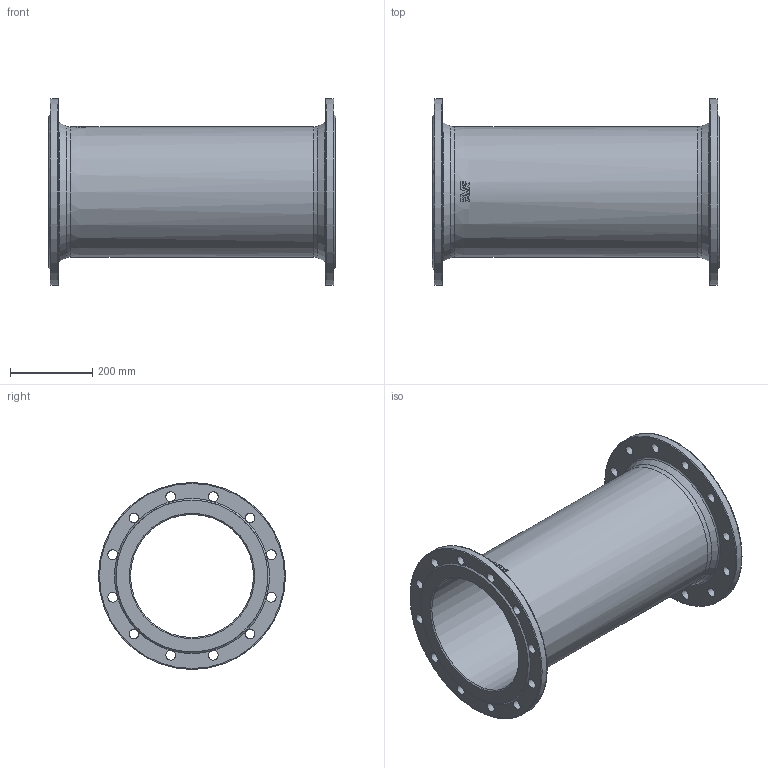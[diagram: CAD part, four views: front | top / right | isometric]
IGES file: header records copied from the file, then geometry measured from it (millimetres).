
Start section: SolidWorks IGES file using analytic representation for surfaces
Global section: file name: \\avksan2\techshare\PBM outline export from Enovia\O_712_5010_DN300_0X_REV01.igs; native system: SolidWorks 2019; preprocessor: SolidWorks 2019; author: pbm; date: 211203.105256; units: millimetre
Bounding box: 700 x 455 x 455 mm (x, y, z)
Surface area: 1711890.2 mm2 (no closed solid volume)
Topology: 0 solids, 0 shells, 112 faces, 578 edges, 535 vertices
Faces by surface type: bspline 66, revolution 46
